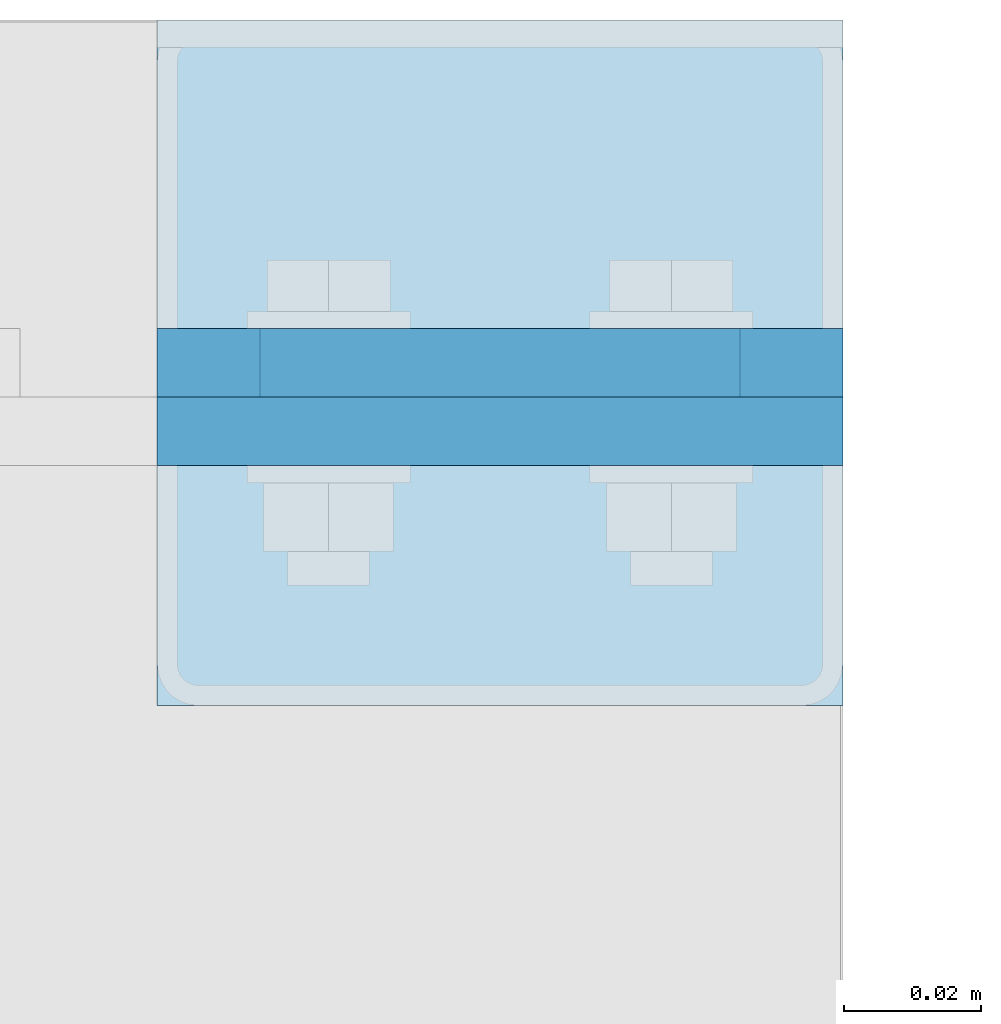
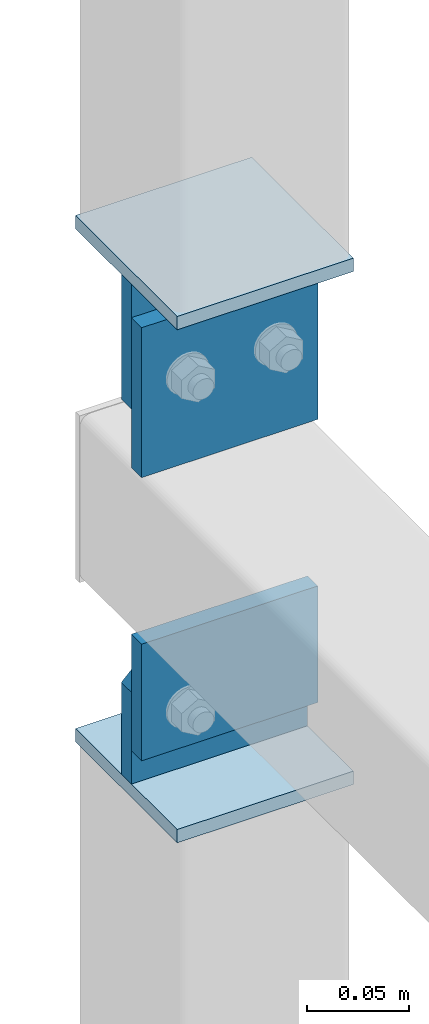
# One storey, part 198 of 271: 6 plates, 3 elements without a shape of their own.
"""IFC2X3 building model written with IfcOpenShell, lengths in millimetres."""

from ifc_helpers import new_model, si_unit, frame, origin_with_axes, place, context, subcontext, project, spatial, polyline, outline, extrude, material, type_object, element, aggregate, save


model = new_model("IFC2X3")

# Units and contexts
model_context = context("Model", 3, precision=1e-05, world=origin_with_axes())
body_context = subcontext(model_context, "Body", "Model", "MODEL_VIEW")
ifc_project = project(units=[si_unit("LENGTHUNIT", "METRE", prefix="MILLI"), si_unit("AREAUNIT", "SQUARE_METRE"), si_unit("VOLUMEUNIT", "CUBIC_METRE"), si_unit("MASSUNIT", "GRAM", prefix="KILO"), si_unit("TIMEUNIT", "SECOND"), si_unit("PLANEANGLEUNIT", "RADIAN"), si_unit("SOLIDANGLEUNIT", "STERADIAN"), si_unit("THERMODYNAMICTEMPERATUREUNIT", "DEGREE_CELSIUS"), si_unit("LUMINOUSINTENSITYUNIT", "LUMEN")], contexts=[model_context])

# Site, building, storey
site_placement = place(None, origin_with_axes())
site = spatial("IfcSite", under=ifc_project, at=site_placement, Name="Undefined", CompositionType="ELEMENT")
building_placement = place(site_placement, origin_with_axes())
building = spatial("IfcBuilding", under=site, at=building_placement, Name="Undefined", CompositionType="ELEMENT")
storey_placement = place(building_placement, origin_with_axes())
storey = spatial("IfcBuildingStorey", under=building, at=storey_placement, Name="Undefined", CompositionType="ELEMENT", Elevation=0.0)

# Assembly, plate
assembly_1_placement = place(storey_placement, origin_with_axes())
assembly_1 = element("IfcElementAssembly", 1, at=assembly_1_placement, inside=storey, AssemblyPlace="NOTDEFINED", PredefinedType="RIGID_FRAME")
ifc_material = material(Name="STEEL/S355JR")
plate_type_1 = type_object("IfcPlateType", Name="BL8*100", PredefinedType="NOTDEFINED")
plate_1_placement = place(assembly_1_placement, frame((12608.3756870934, 4859.32498425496, 14180.3499999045), z_axis=(0.0, 0.0, 1.0), x_axis=(1.0, 0.0, 0.0)))
plate_1 = element("IfcPlate", 2, at=plate_1_placement, type_object=plate_type_1, material=ifc_material, Name="BLACHA", ObjectType="BL8*100", context=body_context, shape_type="SweptSolid", body=[
    extrude(outline(polyline([(0.0, 0.0), (100.0, 0.0), (100.0, 100.0), (1.59161572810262e-12, 100.0), (0.0, 0.0)])), frame((0.0, 0.0, -4.0), z_axis=(0.0, 0.0, 1.0), x_axis=(1.0, 0.0, 0.0)), (0.0, 0.0, 1.0), 8.0),
])

assembly_2_placement = place(storey_placement, origin_with_axes())
assembly_2 = element("IfcElementAssembly", 3, at=assembly_2_placement, inside=storey, AssemblyPlace="NOTDEFINED", PredefinedType="RIGID_FRAME")
plate_2_placement = place(assembly_2_placement, frame((12708.3756870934, 4859.32498425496, 14488.3499999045), z_axis=(0.0, 0.0, -1.0), x_axis=(-1.0, 0.0, 1.38777878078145e-17)))
plate_2 = element("IfcPlate", 4, at=plate_2_placement, type_object=plate_type_1, material=ifc_material, Name="BLACHA", ObjectType="BL8*100", context=body_context, shape_type="SweptSolid", body=[
    extrude(outline(polyline([(0.0, 0.0), (100.0, 0.0), (100.0, 100.0), (1.59161572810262e-12, 100.0), (0.0, 0.0)])), frame((0.0, 0.0, -4.0), z_axis=(0.0, 0.0, 1.0), x_axis=(1.0, 0.0, 0.0)), (0.0, 0.0, 1.0), 8.0),
])

# Plate
plate_type_2 = type_object("IfcPlateType", Name="BL10*70", PredefinedType="NOTDEFINED")
plate_3_placement = place(assembly_1_placement, frame((12608.3756870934, 4909.32498425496, 14239.3499999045), z_axis=(0.0, 1.0, 0.0), x_axis=(0.707106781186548, 0.0, 0.707106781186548)))
plate_3 = element("IfcPlate", 5, at=plate_3_placement, type_object=plate_type_2, material=ifc_material, Name="BLACHA", ObjectType="BL10*70", context=body_context, shape_type="SweptSolid", body=[
    extrude(outline(polyline([(0.0, 0.0), (21.2132034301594, 1.09139364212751e-11), (70.7106781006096, 49.4974746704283), (70.7106781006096, 70.7106781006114), (31.8198051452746, 109.601554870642), (-38.890872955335, 38.8908729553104), (0.0, 0.0)])), frame((0.0, 0.0, -5.0), z_axis=(0.0, 0.0, 1.0), x_axis=(1.0, 0.0, 0.0)), (0.0, 0.0, 1.0), 10.0),
])

aggregate(assembly_1, [plate_1, plate_3])

# Assembly, plate
assembly_3_placement = place(storey_placement, origin_with_axes())
assembly_3 = element("IfcElementAssembly", 6, at=assembly_3_placement, inside=storey, AssemblyPlace="NOTDEFINED", PredefinedType="RIGID_FRAME")
plate_4_placement = place(assembly_3_placement, frame((12608.3756870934, 4899.32498425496, 14274.3499999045), z_axis=(0.0, 1.0, 0.0), x_axis=(1.0, 0.0, 0.0)))
plate_4 = element("IfcPlate", 7, at=plate_4_placement, type_object=plate_type_2, material=ifc_material, Name="BLACHA", ObjectType="BL10*70", context=body_context, shape_type="SweptSolid", body=[
    extrude(outline(polyline([(0.0, 0.0), (100.0, 0.0), (100.0, 70.0), (0.0, 70.0), (0.0, 0.0)])), frame((0.0, 0.0, -5.0), z_axis=(0.0, 0.0, 1.0), x_axis=(1.0, 0.0, 0.0)), (0.0, 0.0, 1.0), 10.0),
])

# Plate
plate_type_3 = type_object("IfcPlateType", Name="BL10*90", PredefinedType="NOTDEFINED")
plate_5_placement = place(assembly_2_placement, frame((12708.3756870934, 4909.32498425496, 14409.3499999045), z_axis=(0.0, 1.0, 0.0), x_axis=(-0.707106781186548, 0.0, -0.707106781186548)))
plate_5 = element("IfcPlate", 8, at=plate_5_placement, type_object=plate_type_3, material=ifc_material, Name="BLACHA", ObjectType="BL10*90", context=body_context, shape_type="SweptSolid", body=[
    extrude(outline(polyline([(0.0, 0.0), (21.2132034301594, 1.09139364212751e-11), (70.7106781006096, 49.4974746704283), (70.7106781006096, 70.7106781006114), (17.6776695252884, 123.743690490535), (-53.033008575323, 53.0330085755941), (0.0, 0.0)])), frame((0.0, 0.0, -5.0), z_axis=(0.0, 0.0, 1.0), x_axis=(1.0, 0.0, 0.0)), (0.0, 0.0, 1.0), 10.0),
])

aggregate(assembly_2, [plate_2, plate_5])

plate_6_placement = place(assembly_3_placement, frame((12708.3756870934, 4899.32498425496, 14374.3499999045), z_axis=(0.0, 1.0, 0.0), x_axis=(-1.0, 0.0, 1.38777878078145e-17)))
plate_6 = element("IfcPlate", 9, at=plate_6_placement, type_object=plate_type_3, material=ifc_material, Name="BLACHA", ObjectType="BL10*90", context=body_context, shape_type="SweptSolid", body=[
    extrude(outline(polyline([(0.0, 0.0), (100.0, 0.0), (100.0, 90.0), (0.0, 90.0), (0.0, 0.0)])), frame((0.0, 0.0, -5.0), z_axis=(0.0, 0.0, 1.0), x_axis=(1.0, 0.0, 0.0)), (0.0, 0.0, 1.0), 10.0),
])

aggregate(assembly_3, [plate_4, plate_6])

save(model, "model.ifc")
